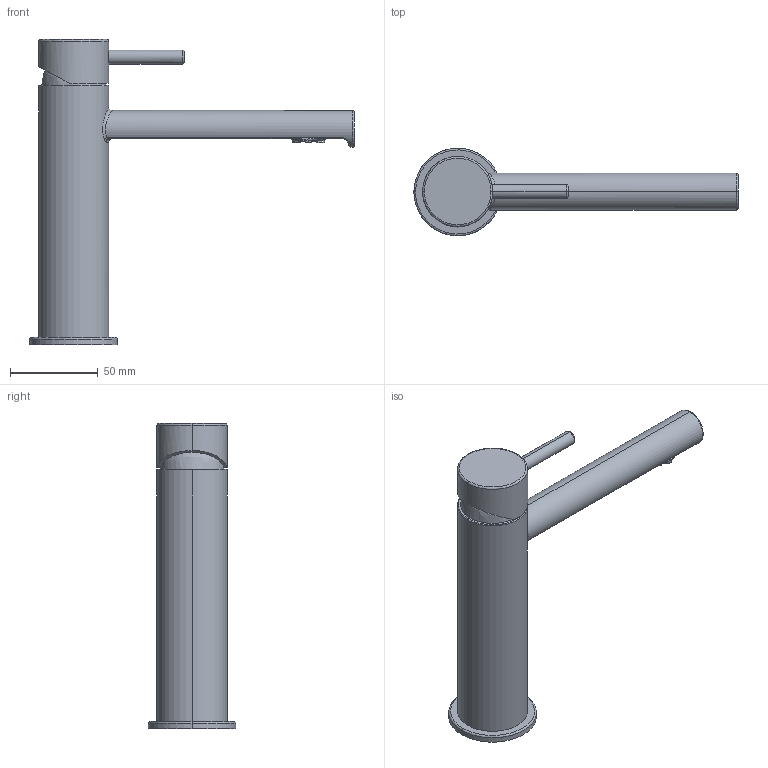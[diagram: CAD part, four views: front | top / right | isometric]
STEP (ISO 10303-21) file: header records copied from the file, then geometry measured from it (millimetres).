
FILE_DESCRIPTION (( 'STEP AP214' ), '1' );
FILE_NAME ('49304510 x architetti.STEP', '2024-11-13T15:36:58', ( '' ), ( '' ), 'SwSTEP 2.0', 'SolidWorks 2020', '' );
FILE_SCHEMA (( 'AUTOMOTIVE_DESIGN' ));
Length unit declared in the file: millimetre
Products named in the file (3): F0005599       ; 49304510 x architetti; 493045 x architetti
Assembly tree (2 placements, depth 2):
  49304510 x architetti
    493045 x architetti
    F0005599       
Bounding box: 185 x 50 x 174 mm (x, y, z)
Volume: 254277.9 mm3; surface area: 50708.1 mm2
Topology: 6 solids, 6 shells, 3928 faces, 11339 edges, 7336 vertices
Faces by surface type: plane 3347, cylinder 426, bspline 145, cone 10
Entity records: 158704 total; most frequent: CARTESIAN_POINT 49774, ORIENTED_EDGE 22674, DIRECTION 13662, EDGE_CURVE 11337, VERTEX_POINT 7336, VECTOR 5218, LINE 5218, B_SPLINE_CURVE_WITH_KNOTS 5041
